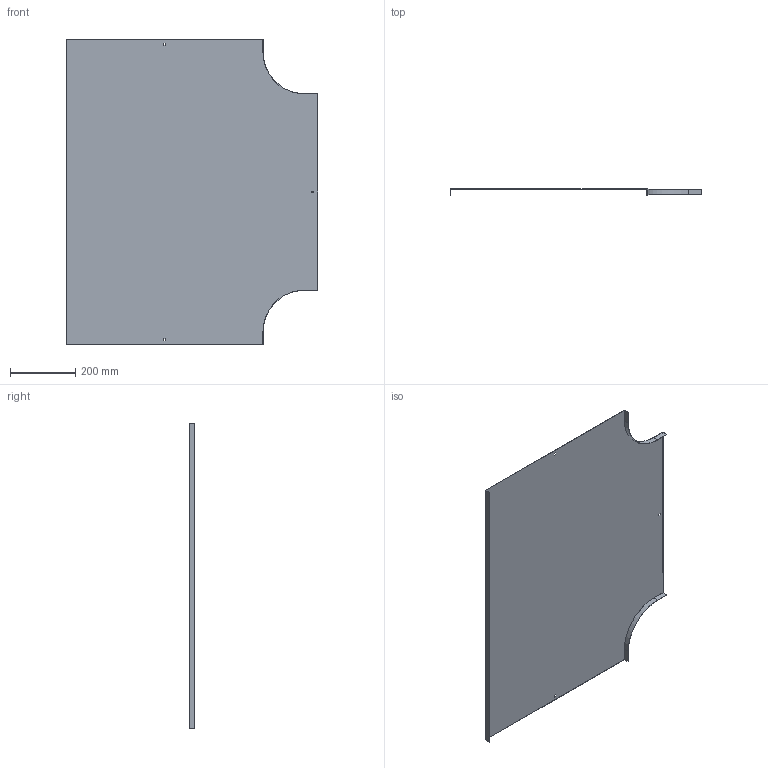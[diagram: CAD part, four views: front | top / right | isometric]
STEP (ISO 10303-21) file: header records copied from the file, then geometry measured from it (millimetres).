
FILE_DESCRIPTION (( 'STEP AP214' ), '1' );
FILE_NAME ('OT_600.step', '2025-07-16T09:18:32', ( '' ), ( '' ), 'SwSTEP 2.0', 'SolidWorks 2023', '' );
FILE_SCHEMA (( 'AUTOMOTIVE_DESIGN' ));
Length unit declared in the file: millimetre
Products named in the file (1): OT_600
Bounding box: 768 x 17 x 934 mm (x, y, z)
Volume: 692750.6 mm3; surface area: 1388971.1 mm2
Topology: 1 solids, 1 shells, 34 faces, 96 edges, 64 vertices
Faces by surface type: plane 30, cylinder 4
Entity records: 1123 total; most frequent: CARTESIAN_POINT 195, ORIENTED_EDGE 192, DIRECTION 174, EDGE_CURVE 96, VECTOR 88, LINE 88, VERTEX_POINT 64, AXIS2_PLACEMENT_3D 43
